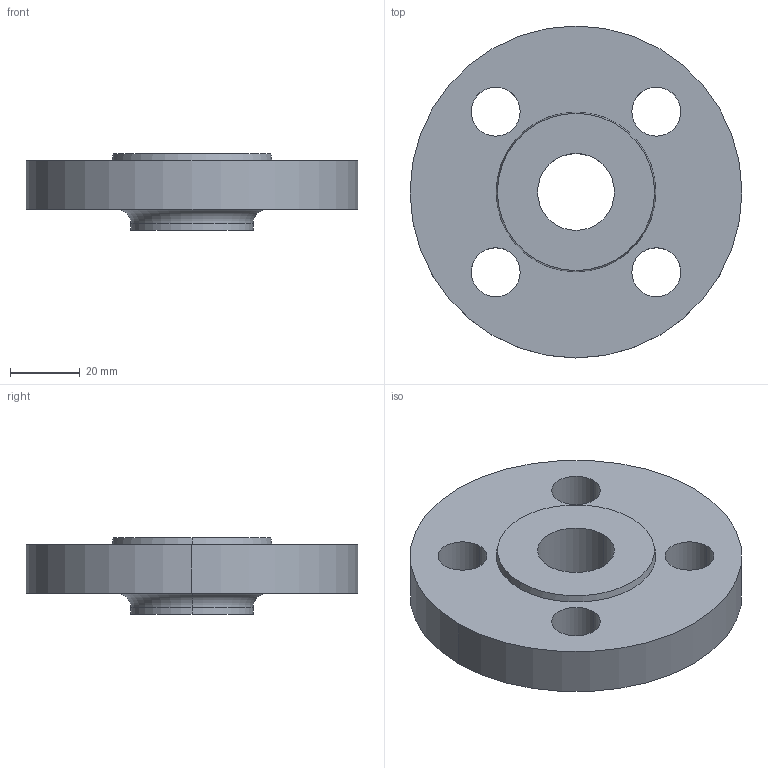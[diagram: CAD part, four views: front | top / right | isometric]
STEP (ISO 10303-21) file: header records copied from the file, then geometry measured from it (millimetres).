
FILE_DESCRIPTION (( 'STEP AP214' ), '1' );
FILE_NAME ('PN40 DN15 Type 12 - Type B Face.STEP', '2018-12-29T15:00:14', ( '' ), ( '' ), 'SwSTEP 2.0', 'SolidWorks 2019', '' );
FILE_SCHEMA (( 'AUTOMOTIVE_DESIGN' ));
Length unit declared in the file: millimetre
Products named in the file (1): PN40 DN15 Type 12 - Type B Face
Bounding box: 95 x 95 x 22 mm (x, y, z)
Volume: 91652.1 mm3; surface area: 21063.7 mm2
Topology: 1 solids, 1 shells, 22 faces, 52 edges, 34 vertices
Faces by surface type: cylinder 14, plane 4, torus 2, cone 2
Entity records: 710 total; most frequent: DIRECTION 134, CARTESIAN_POINT 109, ORIENTED_EDGE 104, AXIS2_PLACEMENT_3D 59, EDGE_CURVE 52, CIRCLE 36, EDGE_LOOP 34, VERTEX_POINT 34
